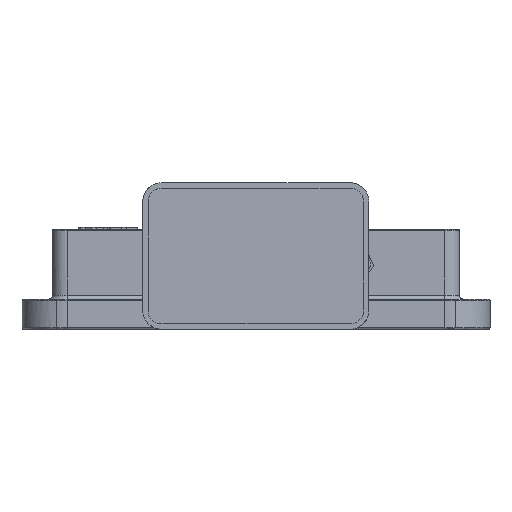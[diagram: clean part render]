
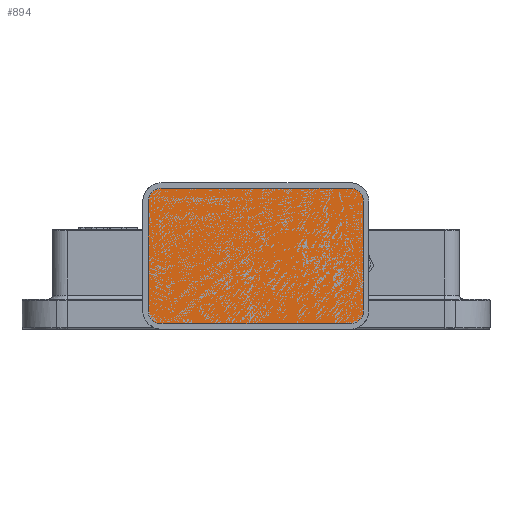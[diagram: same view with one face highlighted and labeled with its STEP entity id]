
A CAD part, left-side view. The second image highlights one B-rep face of the part: STEP entity #894.
In plain terms, the highlighted planar face has unit normal (-1, 0, 0) by its records, which use the part's own axes.
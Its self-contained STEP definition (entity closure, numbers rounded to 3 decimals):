
#235=(
BOUNDED_CURVE()
B_SPLINE_CURVE(2,(#15040,#15041,#15042,#15043,#15044,#15045,#15046,#15047,
#15048,#15049,#15050,#15051,#15052,#15053,#15054,#15055,#15056,#15057,#15058,
#15059,#15060,#15061,#15062,#15063,#15064,#15065,#15066,#15067,#15068,#15069,
#15070,#15071,#15072),.UNSPECIFIED.,.T.,.F.)
B_SPLINE_CURVE_WITH_KNOTS((3,2,2,2,2,2,2,2,2,2,2,2,2,2,2,2,3),(4.142,
5.142,6.712,7.241,7.269,7.428,
7.456,7.712,9.283,10.283,11.854,
12.11,12.138,12.297,12.325,12.854,
14.425),.UNSPECIFIED.)
CURVE()
GEOMETRIC_REPRESENTATION_ITEM()
RATIONAL_B_SPLINE_CURVE((1.,1.,1.,0.707,1.,1.,1.,1.,1.,1.,1.,
1.,1.,1.,1.,0.707,1.,1.,1.,
0.707,1.,1.,1.,1.,
1.,1.,1.,1.,1.,
1.,1.,0.707,1.))
REPRESENTATION_ITEM('')
);
#894=ADVANCED_FACE('',(#1577),#11779,.T.);
#1577=FACE_OUTER_BOUND('',#2261,.T.);
#2261=EDGE_LOOP('',(#3033));
#3033=ORIENTED_EDGE('',*,*,#7005,.F.);
#7005=EDGE_CURVE('',#10513,#10513,#235,.T.);
#10513=VERTEX_POINT('',#14208);
#11779=PLANE('',#12253);
#12253=AXIS2_PLACEMENT_3D('',#13399,#12711,$);
#12711=DIRECTION('',(-1.,0.,0.));
#13399=CARTESIAN_POINT('',(-404.627,-103.784,-34.52));
#14208=CARTESIAN_POINT('',(-404.627,59.836,-23.5));
#15040=CARTESIAN_POINT('',(-404.627,59.836,-23.5));
#15041=CARTESIAN_POINT('',(-404.627,59.836,17.5));
#15042=CARTESIAN_POINT('',(-404.627,59.836,58.5));
#15043=CARTESIAN_POINT('',(-404.627,59.836,68.5));
#15044=CARTESIAN_POINT('',(-404.627,49.836,68.5));
#15045=CARTESIAN_POINT('',(-404.627,12.286,68.5));
#15046=CARTESIAN_POINT('',(-404.627,-25.264,68.5));
#15047=CARTESIAN_POINT('',(-404.627,-27.264,68.5));
#15048=CARTESIAN_POINT('',(-404.627,-29.264,68.5));
#15049=CARTESIAN_POINT('',(-404.627,-40.514,68.5));
#15050=CARTESIAN_POINT('',(-404.627,-51.764,68.5));
#15051=CARTESIAN_POINT('',(-404.627,-53.764,68.5));
#15052=CARTESIAN_POINT('',(-404.627,-55.764,68.5));
#15053=CARTESIAN_POINT('',(-404.627,-73.964,68.5));
#15054=CARTESIAN_POINT('',(-404.627,-92.164,68.5));
#15055=CARTESIAN_POINT('',(-404.627,-102.164,68.5));
#15056=CARTESIAN_POINT('',(-404.627,-102.164,58.5));
#15057=CARTESIAN_POINT('',(-404.627,-102.164,17.5));
#15058=CARTESIAN_POINT('',(-404.627,-102.164,-23.5));
#15059=CARTESIAN_POINT('',(-404.627,-102.164,-33.5));
#15060=CARTESIAN_POINT('',(-404.627,-92.164,-33.5));
#15061=CARTESIAN_POINT('',(-404.627,-73.964,-33.5));
#15062=CARTESIAN_POINT('',(-404.627,-55.764,-33.5));
#15063=CARTESIAN_POINT('',(-404.627,-53.764,-33.5));
#15064=CARTESIAN_POINT('',(-404.627,-51.764,-33.5));
#15065=CARTESIAN_POINT('',(-404.627,-40.514,-33.5));
#15066=CARTESIAN_POINT('',(-404.627,-29.264,-33.5));
#15067=CARTESIAN_POINT('',(-404.627,-27.264,-33.5));
#15068=CARTESIAN_POINT('',(-404.627,-25.264,-33.5));
#15069=CARTESIAN_POINT('',(-404.627,12.286,-33.5));
#15070=CARTESIAN_POINT('',(-404.627,49.836,-33.5));
#15071=CARTESIAN_POINT('',(-404.627,59.836,-33.5));
#15072=CARTESIAN_POINT('',(-404.627,59.836,-23.5));
